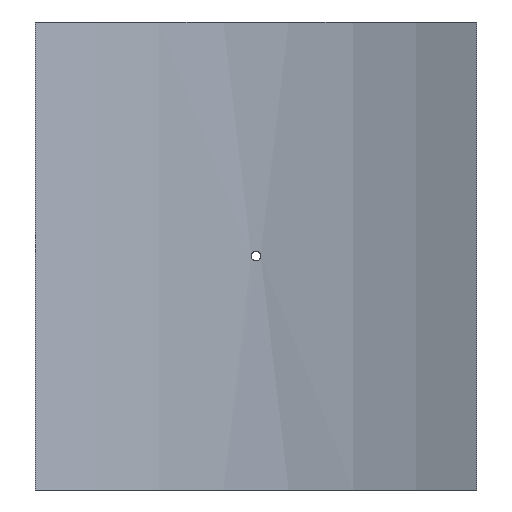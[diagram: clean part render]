
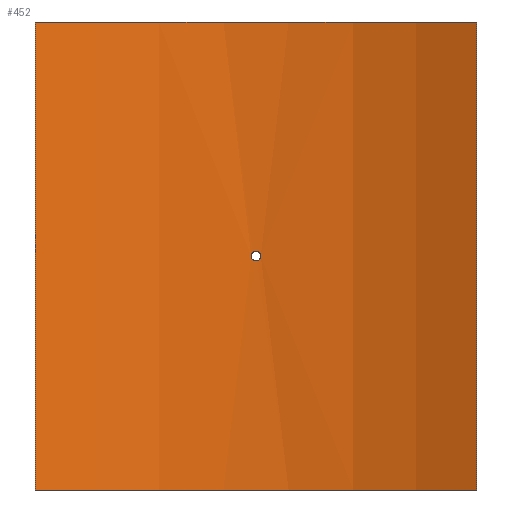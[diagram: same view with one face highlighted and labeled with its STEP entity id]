
A CAD part, front view. The second image highlights one B-rep face of the part: STEP entity #452.
In plain terms, the highlighted cylindrical face has radius 500 mm (diameter 1000 mm), a partial arc.
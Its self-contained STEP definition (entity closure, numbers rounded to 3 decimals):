
#19=B_SPLINE_CURVE_WITH_KNOTS('',3,(#788,#789,#790,#791,#792,#793,#794,
#795,#796,#797,#798,#799,#800,#801,#802,#803,#804,#805,#806,#807,#808,#809,
#810,#811,#812,#813,#814,#815,#816,#817,#818,#819,#820,#821),
 .UNSPECIFIED.,.T.,.F.,(4,2,2,2,2,2,2,2,2,2,2,2,2,2,2,2,4),(0.,0.181,
0.362,0.542,0.723,0.904,
1.085,1.266,1.446,1.627,1.808,
1.989,2.17,2.351,2.531,2.712,
2.893),.UNSPECIFIED.);
#43=LINE('',#1065,#62);
#44=LINE('',#1068,#63);
#62=VECTOR('',#661,10.);
#63=VECTOR('',#664,10.);
#76=CYLINDRICAL_SURFACE('',#530,500.);
#88=FACE_BOUND('',#167,.T.);
#127=FACE_OUTER_BOUND('',#166,.T.);
#166=EDGE_LOOP('',(#405,#406,#407,#408));
#167=EDGE_LOOP('',(#409));
#201=CIRCLE('',#529,500.);
#202=CIRCLE('',#531,500.);
#219=VERTEX_POINT('',#786);
#242=VERTEX_POINT('',#1058);
#243=VERTEX_POINT('',#1060);
#244=VERTEX_POINT('',#1064);
#245=VERTEX_POINT('',#1066);
#267=EDGE_CURVE('',#219,#219,#19,.T.);
#299=EDGE_CURVE('',#242,#243,#201,.T.);
#301=EDGE_CURVE('',#244,#242,#43,.T.);
#302=EDGE_CURVE('',#245,#244,#202,.T.);
#303=EDGE_CURVE('',#245,#243,#44,.T.);
#405=ORIENTED_EDGE('',*,*,#301,.F.);
#406=ORIENTED_EDGE('',*,*,#302,.F.);
#407=ORIENTED_EDGE('',*,*,#303,.T.);
#408=ORIENTED_EDGE('',*,*,#299,.F.);
#409=ORIENTED_EDGE('',*,*,#267,.T.);
#452=ADVANCED_FACE('',(#127,#88),#76,.F.);
#529=AXIS2_PLACEMENT_3D('',#1061,#656,#657);
#530=AXIS2_PLACEMENT_3D('',#1063,#659,#660);
#531=AXIS2_PLACEMENT_3D('',#1067,#662,#663);
#656=DIRECTION('center_axis',(0.,0.,1.));
#657=DIRECTION('ref_axis',(0.443,0.897,0.));
#659=DIRECTION('center_axis',(0.,0.,1.));
#660=DIRECTION('ref_axis',(0.443,0.897,0.));
#661=DIRECTION('',(0.,0.,-1.));
#662=DIRECTION('center_axis',(0.,0.,-1.));
#663=DIRECTION('ref_axis',(0.443,0.897,0.));
#664=DIRECTION('',(0.,0.,-1.));
#786=CARTESIAN_POINT('',(4.8,499.977,0.));
#788=CARTESIAN_POINT('Ctrl Pts',(4.8,499.977,0.));
#789=CARTESIAN_POINT('Ctrl Pts',(4.8,499.977,-0.603));
#790=CARTESIAN_POINT('Ctrl Pts',(4.68,499.978,-1.246));
#791=CARTESIAN_POINT('Ctrl Pts',(4.19,499.983,-2.428));
#792=CARTESIAN_POINT('Ctrl Pts',(3.82,499.986,-2.968));
#793=CARTESIAN_POINT('Ctrl Pts',(2.968,499.991,-3.82));
#794=CARTESIAN_POINT('Ctrl Pts',(2.428,499.994,-4.19));
#795=CARTESIAN_POINT('Ctrl Pts',(1.246,499.999,-4.68));
#796=CARTESIAN_POINT('Ctrl Pts',(0.603,500.,-4.8));
#797=CARTESIAN_POINT('Ctrl Pts',(-0.603,500.,-4.8));
#798=CARTESIAN_POINT('Ctrl Pts',(-1.246,499.999,-4.68));
#799=CARTESIAN_POINT('Ctrl Pts',(-2.428,499.994,-4.19));
#800=CARTESIAN_POINT('Ctrl Pts',(-2.968,499.991,-3.82));
#801=CARTESIAN_POINT('Ctrl Pts',(-3.82,499.986,-2.968));
#802=CARTESIAN_POINT('Ctrl Pts',(-4.19,499.983,-2.428));
#803=CARTESIAN_POINT('Ctrl Pts',(-4.68,499.978,-1.246));
#804=CARTESIAN_POINT('Ctrl Pts',(-4.8,499.977,-0.603));
#805=CARTESIAN_POINT('Ctrl Pts',(-4.8,499.977,0.603));
#806=CARTESIAN_POINT('Ctrl Pts',(-4.68,499.978,1.246));
#807=CARTESIAN_POINT('Ctrl Pts',(-4.19,499.983,2.428));
#808=CARTESIAN_POINT('Ctrl Pts',(-3.82,499.986,2.968));
#809=CARTESIAN_POINT('Ctrl Pts',(-2.968,499.991,3.82));
#810=CARTESIAN_POINT('Ctrl Pts',(-2.428,499.994,4.19));
#811=CARTESIAN_POINT('Ctrl Pts',(-1.246,499.999,4.68));
#812=CARTESIAN_POINT('Ctrl Pts',(-0.603,500.,4.8));
#813=CARTESIAN_POINT('Ctrl Pts',(0.603,500.,4.8));
#814=CARTESIAN_POINT('Ctrl Pts',(1.246,499.999,4.68));
#815=CARTESIAN_POINT('Ctrl Pts',(2.428,499.994,4.19));
#816=CARTESIAN_POINT('Ctrl Pts',(2.968,499.991,3.82));
#817=CARTESIAN_POINT('Ctrl Pts',(3.82,499.986,2.968));
#818=CARTESIAN_POINT('Ctrl Pts',(4.19,499.983,2.428));
#819=CARTESIAN_POINT('Ctrl Pts',(4.68,499.978,1.246));
#820=CARTESIAN_POINT('Ctrl Pts',(4.8,499.977,0.603));
#821=CARTESIAN_POINT('Ctrl Pts',(4.8,499.977,0.));
#1058=CARTESIAN_POINT('',(221.5,448.261,-235.));
#1060=CARTESIAN_POINT('',(-221.5,448.261,-235.));
#1061=CARTESIAN_POINT('Origin',(0.,0.,
-235.));
#1063=CARTESIAN_POINT('Origin',(0.,0.,
0.));
#1064=CARTESIAN_POINT('',(221.5,448.261,235.));
#1065=CARTESIAN_POINT('',(221.5,448.261,0.));
#1066=CARTESIAN_POINT('',(-221.5,448.261,235.));
#1067=CARTESIAN_POINT('Origin',(0.,0.,
235.));
#1068=CARTESIAN_POINT('',(-221.5,448.261,0.));
